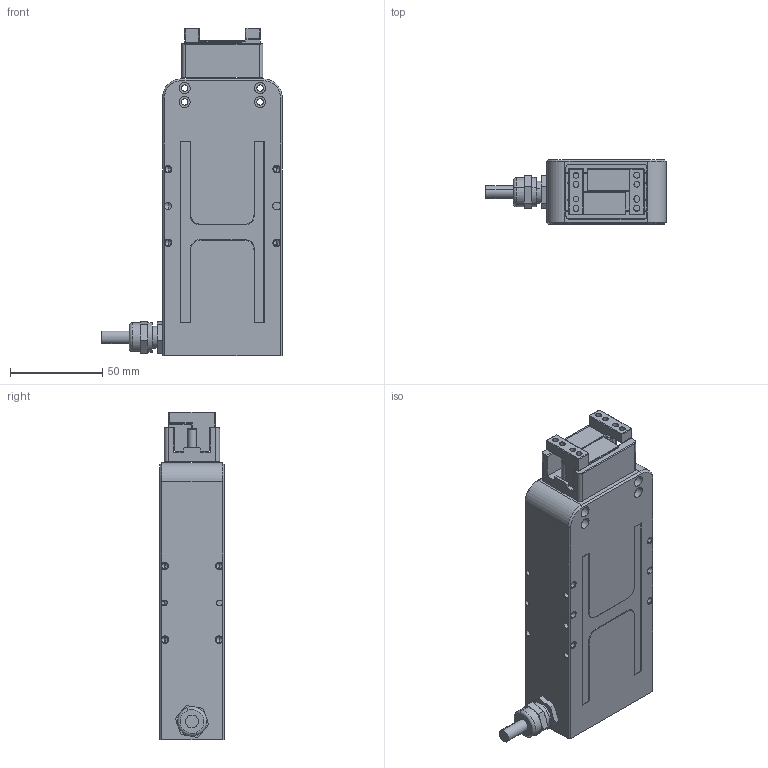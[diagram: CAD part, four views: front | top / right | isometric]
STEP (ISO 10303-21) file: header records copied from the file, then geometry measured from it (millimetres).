
FILE_DESCRIPTION (( 'STEP AP214' ), '1' );
FILE_NAME ('ERG20-100S-20220421.STEP', '2022-04-21T08:24:24', ( '' ), ( '' ), 'SwSTEP 2.0', 'SolidWorks 2018', '' );
FILE_SCHEMA (( 'AUTOMOTIVE_DESIGN' ));
Length unit declared in the file: millimetre
Products named in the file (1): ERG20-100S-20220421
Bounding box: 98 x 35 x 178 mm (x, y, z)
Volume: 359084.5 mm3; surface area: 52209.7 mm2
Topology: 4 solids, 8 shells, 498 faces, 1269 edges, 779 vertices
Faces by surface type: plane 221, cylinder 163, cone 112, torus 2
Entity records: 20339 total; most frequent: CARTESIAN_POINT 2736, DIRECTION 2597, ORIENTED_EDGE 2454, EDGE_CURVE 1227, AXIS2_PLACEMENT_3D 916, VERTEX_POINT 779, VECTOR 765, LINE 765
